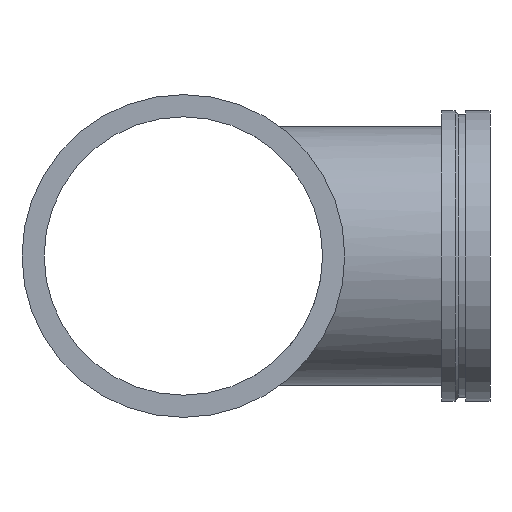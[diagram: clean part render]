
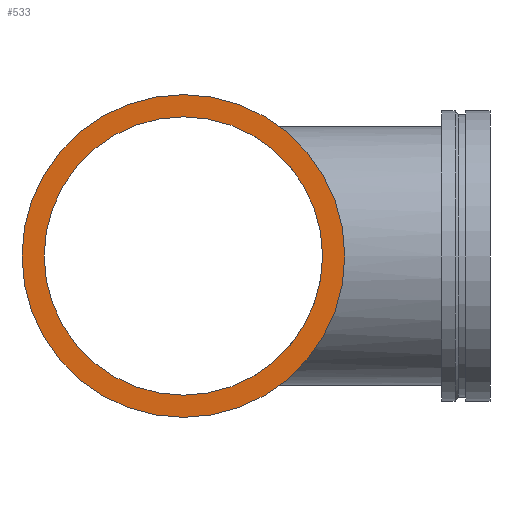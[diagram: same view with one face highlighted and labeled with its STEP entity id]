
A CAD part, left-side view. The second image highlights one B-rep face of the part: STEP entity #533.
In plain terms, the highlighted planar face has unit normal (-1, 0, 0).
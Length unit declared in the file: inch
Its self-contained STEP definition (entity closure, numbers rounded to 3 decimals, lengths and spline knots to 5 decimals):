
#58=FACE_BOUND('',#128,.T.);
#67=PLANE('',#626);
#92=FACE_OUTER_BOUND('',#127,.T.);
#127=EDGE_LOOP('',(#465,#466));
#128=EDGE_LOOP('',(#467,#468));
#151=CIRCLE('',#587,10.);
#152=CIRCLE('',#588,10.);
#175=CIRCLE('',#624,8.625);
#176=CIRCLE('',#625,8.625);
#239=VERTEX_POINT('',#1137);
#240=VERTEX_POINT('',#1139);
#263=VERTEX_POINT('',#1206);
#264=VERTEX_POINT('',#1208);
#299=EDGE_CURVE('',#239,#240,#151,.T.);
#300=EDGE_CURVE('',#240,#239,#152,.T.);
#331=EDGE_CURVE('',#264,#263,#175,.T.);
#332=EDGE_CURVE('',#263,#264,#176,.T.);
#465=ORIENTED_EDGE('',*,*,#300,.F.);
#466=ORIENTED_EDGE('',*,*,#299,.F.);
#467=ORIENTED_EDGE('',*,*,#331,.T.);
#468=ORIENTED_EDGE('',*,*,#332,.T.);
#533=ADVANCED_FACE('',(#92,#58),#67,.T.);
#587=AXIS2_PLACEMENT_3D('',#1140,#716,#717);
#588=AXIS2_PLACEMENT_3D('',#1141,#718,#719);
#624=AXIS2_PLACEMENT_3D('',#1209,#798,#799);
#625=AXIS2_PLACEMENT_3D('',#1210,#800,#801);
#626=AXIS2_PLACEMENT_3D('',#1211,#802,#803);
#716=DIRECTION('center_axis',(1.,0.,0.));
#717=DIRECTION('ref_axis',(0.,0.,1.));
#718=DIRECTION('center_axis',(1.,0.,0.));
#719=DIRECTION('ref_axis',(0.,0.,1.));
#798=DIRECTION('center_axis',(1.,0.,0.));
#799=DIRECTION('ref_axis',(0.,0.,1.));
#800=DIRECTION('center_axis',(1.,0.,0.));
#801=DIRECTION('ref_axis',(0.,0.,1.));
#802=DIRECTION('center_axis',(-1.,0.,0.));
#803=DIRECTION('ref_axis',(0.,0.,-1.));
#1137=CARTESIAN_POINT('',(-19.5,10.,0.));
#1139=CARTESIAN_POINT('',(-19.5,-10.,0.));
#1140=CARTESIAN_POINT('Origin',(-19.5,0.,0.));
#1141=CARTESIAN_POINT('Origin',(-19.5,0.,0.));
#1206=CARTESIAN_POINT('',(-19.5,8.625,0.));
#1208=CARTESIAN_POINT('',(-19.5,-8.625,0.));
#1209=CARTESIAN_POINT('Origin',(-19.5,0.,0.));
#1210=CARTESIAN_POINT('Origin',(-19.5,0.,0.));
#1211=CARTESIAN_POINT('Origin',(-19.5,-10.,0.));
